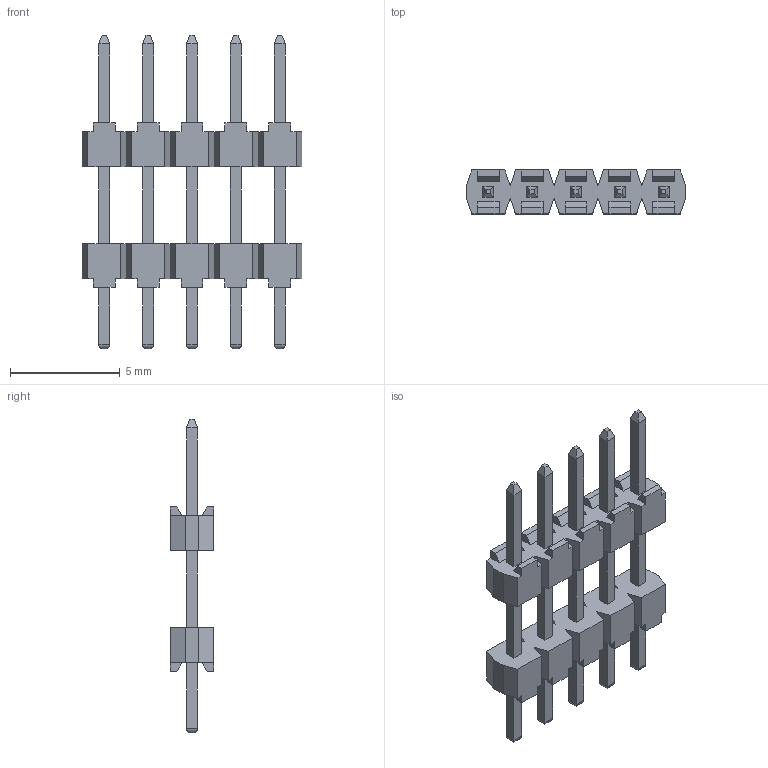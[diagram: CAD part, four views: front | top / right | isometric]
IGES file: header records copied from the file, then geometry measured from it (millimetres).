
Global section: file name: N:\GOLF_VI_2mm_UGII\9514XX_901XX06_AR\951405-9011506-AR.igs; native system: NX V3.0; preprocessor: UGS NX IGES V4.0; date: 20070314.113005; units: millimetre
Bounding box: 10 x 2 x 14.3 mm (x, y, z)
Surface area: 296.8 mm2 (no closed solid volume)
Topology: 0 solids, 0 shells, 258 faces, 1385 edges, 1385 vertices
Faces by surface type: bspline 258
